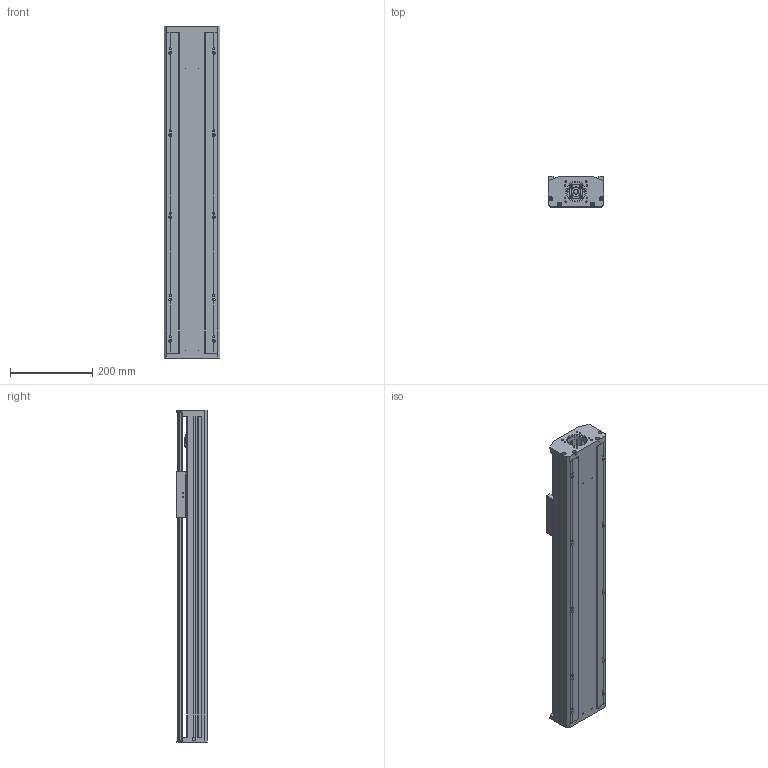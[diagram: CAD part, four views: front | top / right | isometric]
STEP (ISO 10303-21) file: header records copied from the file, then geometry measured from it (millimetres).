
FILE_DESCRIPTION(/* description */ (''),/* implementation_level */ '2;1');
FILE_NAME(/* name */ 'TKA136-F0-550_asm1_stp.stp',/* time_stamp */ '2016-09-08T15:41:21+08:00',/* author */ (''),/* organization */ (''),/* preprocessor_version */ 'ST-DEVELOPER v15',/* originating_system */ 'SIEMENS PLM Software NX 8.5',/* authorisation */ '');
FILE_SCHEMA (('AUTOMOTIVE_DESIGN { 1 0 10303 214 3 1 1 1 }'));
Length unit declared in the file: millimetre
Products named in the file (3): 550-02; 550-01; TKA136-F0-550_asm1_stp
Assembly tree (2 placements, depth 2):
  TKA136-F0-550_asm1_stp
    550-01
    550-02
Bounding box: 136 x 75 x 807 mm (x, y, z)
Volume: 2632152.1 mm3; surface area: 962015.3 mm2
Topology: 2 solids, 12 shells, 813 faces, 2255 edges, 1464 vertices
Faces by surface type: plane 383, cylinder 376, cone 54
Full cylindrical faces by diameter (mm): 2.5 x4, 3 x2, 3.3 x12, 4 x4, 4.2 x10, 4.5 x20, 5 x14, 5.5 x26, 6.6 x14, 8 x20, 10 x9, 10.5 x10, 11 x4, 11.6 x1, 12 x9, 15 x3, 16 x5, 17 x1, 24 x5, 26 x1, 28 x1, 46 x1, 50 x1
Entity records: 27046 total; most frequent: CARTESIAN_POINT 7258, DIRECTION 4097, ORIENTED_EDGE 3828, EDGE_CURVE 1914, AXIS2_PLACEMENT_3D 1559, VERTEX_POINT 1380, EDGE_LOOP 1188, LINE 979
